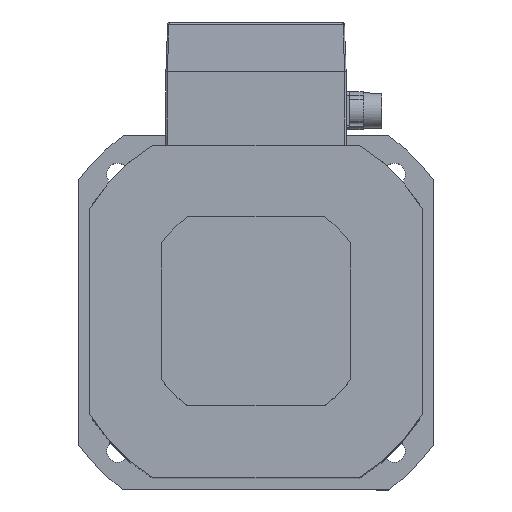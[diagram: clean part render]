
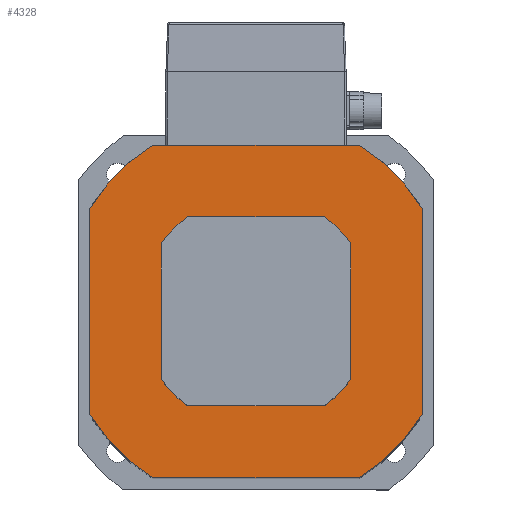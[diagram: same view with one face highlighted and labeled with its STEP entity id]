
A CAD part, top view. The second image highlights one B-rep face of the part: STEP entity #4328.
In plain terms, the highlighted planar face has unit normal (0, 0, 1).
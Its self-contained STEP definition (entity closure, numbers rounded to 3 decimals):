
#926=PLANE('',#4568);
#1044=VECTOR('',#5012,1.);
#1048=VECTOR('',#5023,1.);
#1052=VECTOR('',#5034,1.);
#1054=VECTOR('',#5037,1.);
#1310=LINE('',#6047,#1044);
#1314=LINE('',#6059,#1048);
#1318=LINE('',#6071,#1052);
#1320=LINE('',#6075,#1054);
#1574=VERTEX_POINT('',#6038);
#1575=VERTEX_POINT('',#6040);
#1577=VERTEX_POINT('',#6046);
#1579=VERTEX_POINT('',#6052);
#1581=VERTEX_POINT('',#6058);
#1583=VERTEX_POINT('',#6064);
#1585=VERTEX_POINT('',#6070);
#1587=VERTEX_POINT('',#6076);
#1933=CIRCLE('',#4553,132.5);
#1935=CIRCLE('',#4557,132.5);
#1937=CIRCLE('',#4561,132.5);
#1939=CIRCLE('',#4567,132.5);
#2131=EDGE_CURVE('',#1575,#1574,#1933,.T.);
#2135=EDGE_CURVE('',#1574,#1577,#1310,.T.);
#2138=EDGE_CURVE('',#1577,#1579,#1935,.T.);
#2141=EDGE_CURVE('',#1579,#1581,#1314,.T.);
#2144=EDGE_CURVE('',#1581,#1583,#1937,.T.);
#2147=EDGE_CURVE('',#1583,#1585,#1318,.T.);
#2149=EDGE_CURVE('',#1587,#1575,#1320,.T.);
#2152=EDGE_CURVE('',#1585,#1587,#1939,.T.);
#2699=ORIENTED_EDGE('',*,*,#2147,.T.);
#2700=ORIENTED_EDGE('',*,*,#2152,.T.);
#2701=ORIENTED_EDGE('',*,*,#2149,.T.);
#2702=ORIENTED_EDGE('',*,*,#2131,.T.);
#2703=ORIENTED_EDGE('',*,*,#2135,.T.);
#2704=ORIENTED_EDGE('',*,*,#2138,.T.);
#2705=ORIENTED_EDGE('',*,*,#2141,.T.);
#2706=ORIENTED_EDGE('',*,*,#2144,.T.);
#3728=EDGE_LOOP('',(#2699,#2700,#2701,#2702,#2703,#2704,#2705,#2706));
#4028=FACE_BOUND('',#3728,.T.);
#4328=ADVANCED_FACE('',(#4028),#926,.T.);
#4553=AXIS2_PLACEMENT_3D('',#6039,#5006,#5007);
#4557=AXIS2_PLACEMENT_3D('',#6053,#5018,#5019);
#4561=AXIS2_PLACEMENT_3D('',#6065,#5029,#5030);
#4567=AXIS2_PLACEMENT_3D('',#6081,#5044,#5045);
#4568=AXIS2_PLACEMENT_3D('',#6082,#5046,$);
#5006=DIRECTION('',(0.,0.,1.));
#5007=DIRECTION('',(132.5,0.,0.));
#5012=DIRECTION('',(1.,0.,0.));
#5018=DIRECTION('',(0.,0.,1.));
#5019=DIRECTION('',(132.5,0.,0.));
#5023=DIRECTION('',(0.,1.,0.));
#5029=DIRECTION('',(0.,0.,1.));
#5030=DIRECTION('',(132.5,0.,0.));
#5034=DIRECTION('',(-1.,0.,0.));
#5037=DIRECTION('',(0.,-1.,0.));
#5044=DIRECTION('',(0.,0.,1.));
#5045=DIRECTION('',(132.5,0.,0.));
#5046=DIRECTION('',(0.,0.,1.));
#6038=CARTESIAN_POINT('',(-70.,-112.5,0.));
#6039=CARTESIAN_POINT('',(0.,0.,0.));
#6040=CARTESIAN_POINT('',(-112.5,-70.,0.));
#6046=CARTESIAN_POINT('',(70.,-112.5,0.));
#6047=CARTESIAN_POINT('',(-70.,-112.5,0.));
#6052=CARTESIAN_POINT('',(112.5,-70.,0.));
#6053=CARTESIAN_POINT('',(0.,0.,0.));
#6058=CARTESIAN_POINT('',(112.5,70.,0.));
#6059=CARTESIAN_POINT('',(112.5,-70.,0.));
#6064=CARTESIAN_POINT('',(70.,112.5,0.));
#6065=CARTESIAN_POINT('',(0.,0.,0.));
#6070=CARTESIAN_POINT('',(-70.,112.5,0.));
#6071=CARTESIAN_POINT('',(70.,112.5,0.));
#6075=CARTESIAN_POINT('',(-112.5,70.,0.));
#6076=CARTESIAN_POINT('',(-112.5,70.,0.));
#6081=CARTESIAN_POINT('',(0.,0.,0.));
#6082=CARTESIAN_POINT('',(0.,0.,0.));
